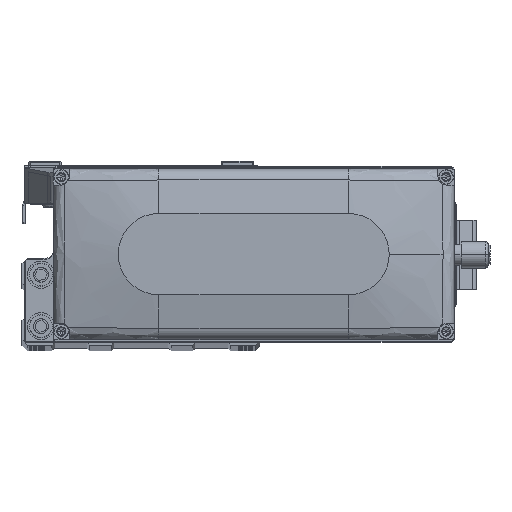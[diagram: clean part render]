
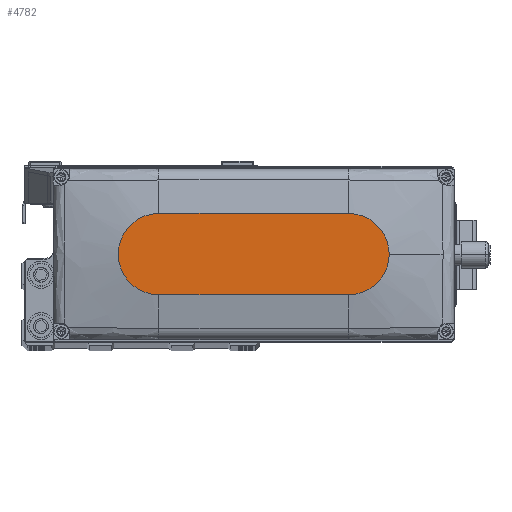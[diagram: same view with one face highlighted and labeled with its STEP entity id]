
A CAD part, top view. The second image highlights one B-rep face of the part: STEP entity #4782.
In plain terms, the highlighted planar face has unit normal (0, 0, 1).
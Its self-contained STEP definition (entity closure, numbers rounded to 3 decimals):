
#783 = EDGE_CURVE ( 'NONE', #13355, #51074, #17601, .T. ) ;
#1372 = DIRECTION ( 'NONE',  ( 0., 0., 1. ) ) ;
#2029 = AXIS2_PLACEMENT_3D ( 'NONE', #19312, #35319, #51327 ) ;
#2088 = DIRECTION ( 'NONE',  ( 1., 0., 0. ) ) ;
#3492 = ORIENTED_EDGE ( 'NONE', *, *, #783, .T. ) ;
#4330 = CARTESIAN_POINT ( 'NONE',  ( 50., 0., 35. ) ) ;
#4782 = ADVANCED_FACE ( 'NONE', ( #34302 ), #50300, .T. ) ;
#6895 = VECTOR ( 'NONE', #49615, 1000. ) ;
#7486 = EDGE_CURVE ( 'NONE', #36441, #13355, #47859, .T. ) ;
#9889 = AXIS2_PLACEMENT_3D ( 'NONE', #14352, #30365, #46363 ) ;
#10981 = EDGE_CURVE ( 'NONE', #12481, #28956, #22028, .T. ) ;
#12481 = VERTEX_POINT ( 'NONE', #16505 ) ;
#13355 = VERTEX_POINT ( 'NONE', #44581 ) ;
#14352 = CARTESIAN_POINT ( 'NONE',  ( 0., 0., 35. ) ) ;
#14868 = CARTESIAN_POINT ( 'NONE',  ( 35., 0., 35. ) ) ;
#15518 = CIRCLE ( 'NONE', #44863, 15. ) ;
#16505 = CARTESIAN_POINT ( 'NONE',  ( -35., -15., 35. ) ) ;
#17380 = DIRECTION ( 'NONE',  ( 1., 0., 0. ) ) ;
#17601 = LINE ( 'NONE', #33622, #6895 ) ;
#17938 = CIRCLE ( 'NONE', #2029, 15. ) ;
#18636 = ORIENTED_EDGE ( 'NONE', *, *, #10981, .T. ) ;
#19312 = CARTESIAN_POINT ( 'NONE',  ( 35., 0., 35. ) ) ;
#20391 = ORIENTED_EDGE ( 'NONE', *, *, #42580, .T. ) ;
#22028 = LINE ( 'NONE', #38038, #37666 ) ;
#22969 = CARTESIAN_POINT ( 'NONE',  ( 35., -15., 35. ) ) ;
#24662 = EDGE_LOOP ( 'NONE', ( #3492, #26681, #18636, #20391, #47777 ) ) ;
#25235 = AXIS2_PLACEMENT_3D ( 'NONE', #14868, #30884, #46881 ) ;
#26681 = ORIENTED_EDGE ( 'NONE', *, *, #44475, .T. ) ;
#28956 = VERTEX_POINT ( 'NONE', #22969 ) ;
#30365 = DIRECTION ( 'NONE',  ( 0., 0., 1. ) ) ;
#30884 = DIRECTION ( 'NONE',  ( 0., 0., 1. ) ) ;
#33622 = CARTESIAN_POINT ( 'NONE',  ( -35., 15., 35. ) ) ;
#34302 = FACE_OUTER_BOUND ( 'NONE', #24662, .T. ) ;
#35319 = DIRECTION ( 'NONE',  ( 0., 0., 1. ) ) ;
#36441 = VERTEX_POINT ( 'NONE', #4330 ) ;
#37330 = CARTESIAN_POINT ( 'NONE',  ( -35., 0., 35. ) ) ;
#37666 = VECTOR ( 'NONE', #2088, 1000. ) ;
#38038 = CARTESIAN_POINT ( 'NONE',  ( -35., -15., 35. ) ) ;
#42580 = EDGE_CURVE ( 'NONE', #28956, #36441, #17938, .T. ) ;
#44475 = EDGE_CURVE ( 'NONE', #51074, #12481, #15518, .T. ) ;
#44581 = CARTESIAN_POINT ( 'NONE',  ( 35., 15., 35. ) ) ;
#44863 = AXIS2_PLACEMENT_3D ( 'NONE', #37330, #1372, #17380 ) ;
#45852 = CARTESIAN_POINT ( 'NONE',  ( -35., 15., 35. ) ) ;
#46363 = DIRECTION ( 'NONE',  ( 1., 0., 0. ) ) ;
#46881 = DIRECTION ( 'NONE',  ( 1., 0., 0. ) ) ;
#47777 = ORIENTED_EDGE ( 'NONE', *, *, #7486, .T. ) ;
#47859 = CIRCLE ( 'NONE', #25235, 15. ) ;
#49615 = DIRECTION ( 'NONE',  ( -1., 0., 0. ) ) ;
#50300 = PLANE ( 'NONE',  #9889 ) ;
#51074 = VERTEX_POINT ( 'NONE', #45852 ) ;
#51327 = DIRECTION ( 'NONE',  ( 1., 0., 0. ) ) ;
